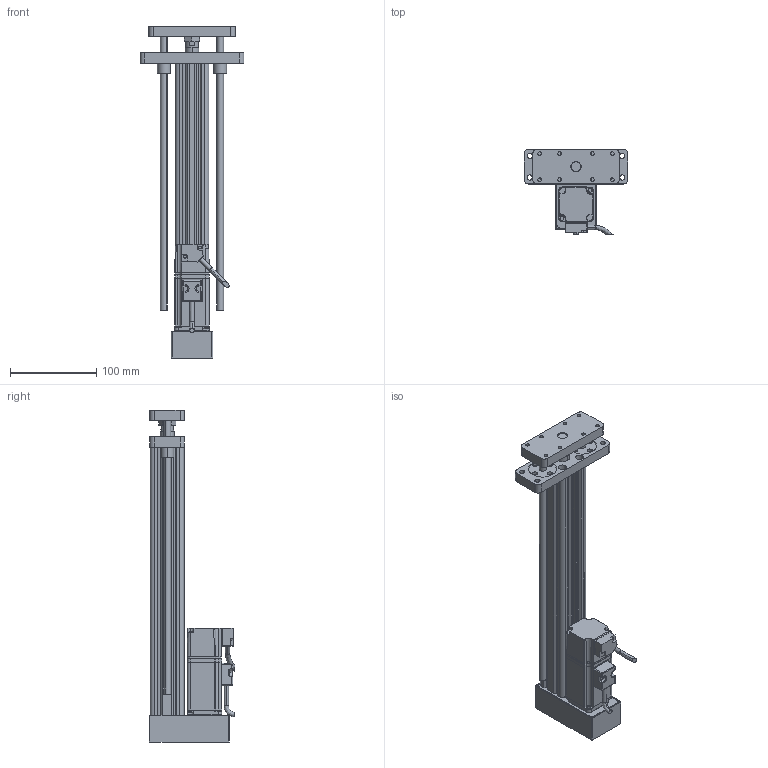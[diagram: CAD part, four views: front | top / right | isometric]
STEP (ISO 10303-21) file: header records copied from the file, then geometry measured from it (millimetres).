
FILE_DESCRIPTION (( 'STEP AP214' ), '1' );
FILE_NAME ('039-S250-D02-B-M3-C5-2.STEP', '2021-02-26T00:52:38', ( '' ), ( '' ), 'SwSTEP 2.0', 'SolidWorks 2018', '' );
FILE_SCHEMA (( 'AUTOMOTIVE_DESIGN' ));
Length unit declared in the file: millimetre
Products named in the file (11): CMC039-XT; 039-S250-D02-B-M3-C5-2; CMC039-DZ; CMC039-FL; CMC039-GT; LME01-d8; GB／T6172．1-2000六角薄螺母A级和B级M12; ECMA-CX0401ES-40框號系列機種-100W低慣量系列; CMC039-DB; CMC039-LJB; CMC039-DT
Assembly tree (12 placements, depth 2):
  039-S250-D02-B-M3-C5-2
    CMC039-GT
    CMC039-LJB
    CMC039-XT
    CMC039-FL
    CMC039-DT
    ECMA-CX0401ES-40框號系列機種-100W低慣量系列
    LME01-d8  x2
    CMC039-DB
    GB／T6172．1-2000六角薄螺母A级和B级M12
    CMC039-DZ  x2
Bounding box: 120 x 99.39 x 384 mm (x, y, z)
Volume: 617356.8 mm3; surface area: 223637.4 mm2
Topology: 12 solids, 20 shells, 766 faces, 1956 edges, 1223 vertices
Faces by surface type: cylinder 336, plane 275, bspline 88, cone 67
Entity records: 28536 total; most frequent: CARTESIAN_POINT 11352, ORIENTED_EDGE 3654, DIRECTION 3059, EDGE_CURVE 1827, VERTEX_POINT 1164, AXIS2_PLACEMENT_3D 1094, LINE 871, VECTOR 871
